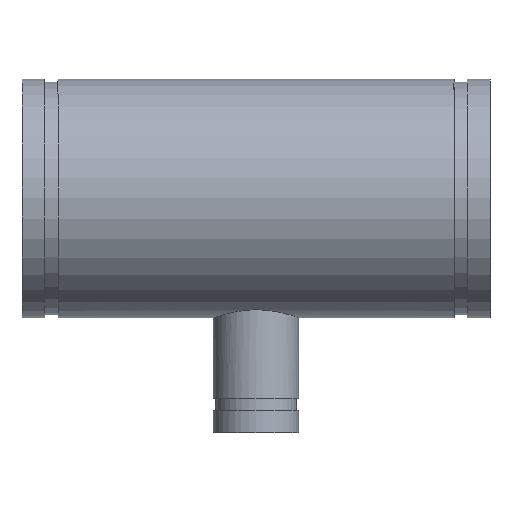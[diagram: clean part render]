
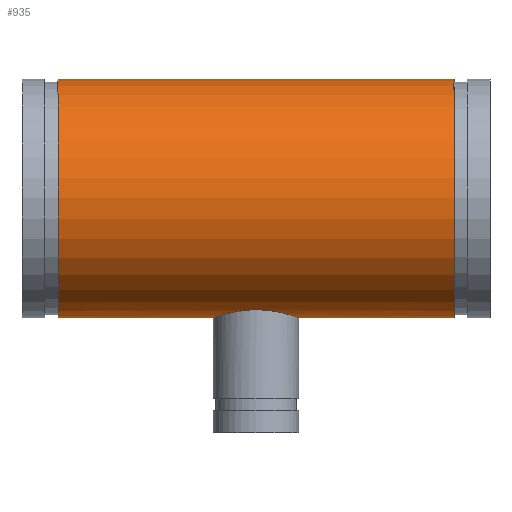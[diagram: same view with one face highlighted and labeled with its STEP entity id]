
A CAD part, top view. The second image highlights one B-rep face of the part: STEP entity #935.
In plain terms, the highlighted cylindrical face has radius 84.138 mm (diameter 168.275 mm), a full revolution.
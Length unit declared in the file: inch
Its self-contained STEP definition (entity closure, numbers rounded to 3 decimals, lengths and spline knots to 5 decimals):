
#61=FACE_BOUND('',#222,.T.);
#67=B_SPLINE_CURVE_WITH_KNOTS('',3,(#1807,#1808,#1809,#1810,#1811,#1812,
#1813,#1814,#1815,#1816,#1817,#1818,#1819,#1820,#1821,#1822,#1823,#1824),
 .UNSPECIFIED.,.F.,.F.,(4,2,2,2,2,2,2,2,4),(0.,0.57384,1.14768,
1.72152,2.29537,2.86885,3.44232,4.0158,
4.58928),.UNSPECIFIED.);
#68=B_SPLINE_CURVE_WITH_KNOTS('',3,(#1825,#1826,#1827,#1828,#1829,#1830,
#1831,#1832,#1833,#1834,#1835,#1836,#1837,#1838,#1839,#1840,#1841,#1842,
#1843,#1844,#1845,#1846,#1847,#1848,#1849,#1850,#1851,#1852,#1853,#1854,
#1855,#1856,#1857,#1858,#1859,#1860,#1861,#1862,#1863,#1864,#1865,#1866,
#1867,#1868,#1869,#1870,#1871,#1872,#1873,#1874),.UNSPECIFIED.,.F.,.F.,
(4,2,2,2,2,2,2,2,2,2,2,2,2,2,2,2,2,2,2,2,2,2,2,2,4),(4.58928,5.16276,
5.73624,6.30972,6.8832,7.45704,8.03088,
8.60472,9.17857,9.75241,10.32625,10.90009,
11.47393,12.04741,12.62089,13.19437,13.76785,
14.34133,14.91481,15.48829,16.06176,16.63561,
17.20945,17.78329,18.35713),.UNSPECIFIED.);
#81=CYLINDRICAL_SURFACE('',#1104,3.3125);
#103=LINE('',#1804,#125);
#125=VECTOR('',#1432,3.3125);
#171=FACE_OUTER_BOUND('',#221,.T.);
#221=EDGE_LOOP('',(#814,#815,#816,#817));
#222=EDGE_LOOP('',(#818,#819));
#326=CIRCLE('',#1087,3.3125);
#337=CIRCLE('',#1103,3.3125);
#424=VERTEX_POINT('',#1772);
#435=VERTEX_POINT('',#1801);
#436=VERTEX_POINT('',#1805);
#437=VERTEX_POINT('',#1806);
#552=EDGE_CURVE('',#424,#424,#326,.T.);
#565=EDGE_CURVE('',#435,#435,#337,.T.);
#566=EDGE_CURVE('',#435,#424,#103,.T.);
#567=EDGE_CURVE('',#436,#437,#67,.T.);
#568=EDGE_CURVE('',#437,#436,#68,.T.);
#814=ORIENTED_EDGE('',*,*,#565,.T.);
#815=ORIENTED_EDGE('',*,*,#566,.T.);
#816=ORIENTED_EDGE('',*,*,#552,.T.);
#817=ORIENTED_EDGE('',*,*,#566,.F.);
#818=ORIENTED_EDGE('',*,*,#567,.T.);
#819=ORIENTED_EDGE('',*,*,#568,.T.);
#935=ADVANCED_FACE('',(#171,#61),#81,.T.);
#1087=AXIS2_PLACEMENT_3D('',#1773,#1394,#1395);
#1103=AXIS2_PLACEMENT_3D('',#1802,#1428,#1429);
#1104=AXIS2_PLACEMENT_3D('',#1803,#1430,#1431);
#1394=DIRECTION('center_axis',(-1.,0.,0.));
#1395=DIRECTION('ref_axis',(0.,-1.,0.));
#1428=DIRECTION('center_axis',(1.,0.,0.));
#1429=DIRECTION('ref_axis',(0.,-1.,0.));
#1430=DIRECTION('center_axis',(-1.,0.,0.));
#1431=DIRECTION('ref_axis',(0.,-1.,0.));
#1432=DIRECTION('',(1.,0.,0.));
#1772=CARTESIAN_POINT('',(5.5,3.3125,0.));
#1773=CARTESIAN_POINT('Origin',(5.5,0.,0.));
#1801=CARTESIAN_POINT('',(-5.5,3.3125,0.));
#1802=CARTESIAN_POINT('Origin',(-5.5,0.,0.));
#1803=CARTESIAN_POINT('Origin',(6.5,0.,0.));
#1804=CARTESIAN_POINT('',(6.5,3.3125,0.));
#1805=CARTESIAN_POINT('',(0.,-3.09233,-1.1875));
#1806=CARTESIAN_POINT('',(-1.1875,-3.3125,0.));
#1807=CARTESIAN_POINT('Ctrl Pts',(0.,-3.09233,
-1.1875));
#1808=CARTESIAN_POINT('Ctrl Pts',(-0.07531,-3.09233,
-1.1875));
#1809=CARTESIAN_POINT('Ctrl Pts',(-0.15294,-3.09516,
-1.18022));
#1810=CARTESIAN_POINT('Ctrl Pts',(-0.30692,-3.10657,
-1.14983));
#1811=CARTESIAN_POINT('Ctrl Pts',(-0.38327,-3.11515,-1.12673));
#1812=CARTESIAN_POINT('Ctrl Pts',(-0.52932,-3.13647,-1.06594));
#1813=CARTESIAN_POINT('Ctrl Pts',(-0.59916,-3.14921,
-1.02821));
#1814=CARTESIAN_POINT('Ctrl Pts',(-0.72817,-3.17628,-0.94126));
#1815=CARTESIAN_POINT('Ctrl Pts',(-0.78733,-3.19059,
-0.89205));
#1816=CARTESIAN_POINT('Ctrl Pts',(-0.89202,-3.21802,
-0.78736));
#1817=CARTESIAN_POINT('Ctrl Pts',(-0.94123,-3.23213,
-0.72822));
#1818=CARTESIAN_POINT('Ctrl Pts',(-1.02818,-3.25852,-0.5992));
#1819=CARTESIAN_POINT('Ctrl Pts',(-1.06594,-3.27076,-0.52934));
#1820=CARTESIAN_POINT('Ctrl Pts',(-1.12674,-3.29108,-0.38323));
#1821=CARTESIAN_POINT('Ctrl Pts',(-1.14985,-3.29916,-0.30687));
#1822=CARTESIAN_POINT('Ctrl Pts',(-1.18023,-3.30987,-0.15288));
#1823=CARTESIAN_POINT('Ctrl Pts',(-1.1875,-3.3125,-0.07526));
#1824=CARTESIAN_POINT('Ctrl Pts',(-1.1875,-3.3125,0.));
#1825=CARTESIAN_POINT('Ctrl Pts',(-1.1875,-3.3125,0.));
#1826=CARTESIAN_POINT('Ctrl Pts',(-1.1875,-3.3125,0.07526));
#1827=CARTESIAN_POINT('Ctrl Pts',(-1.18023,-3.30987,0.15288));
#1828=CARTESIAN_POINT('Ctrl Pts',(-1.14985,-3.29916,0.30687));
#1829=CARTESIAN_POINT('Ctrl Pts',(-1.12674,-3.29108,0.38323));
#1830=CARTESIAN_POINT('Ctrl Pts',(-1.06594,-3.27076,0.52934));
#1831=CARTESIAN_POINT('Ctrl Pts',(-1.02818,-3.25852,0.5992));
#1832=CARTESIAN_POINT('Ctrl Pts',(-0.94123,-3.23213,
0.72822));
#1833=CARTESIAN_POINT('Ctrl Pts',(-0.89202,-3.21802,
0.78736));
#1834=CARTESIAN_POINT('Ctrl Pts',(-0.78733,-3.19059,
0.89205));
#1835=CARTESIAN_POINT('Ctrl Pts',(-0.72817,-3.17628,0.94126));
#1836=CARTESIAN_POINT('Ctrl Pts',(-0.59916,-3.14921,
1.02821));
#1837=CARTESIAN_POINT('Ctrl Pts',(-0.52932,-3.13647,1.06594));
#1838=CARTESIAN_POINT('Ctrl Pts',(-0.38327,-3.11515,1.12673));
#1839=CARTESIAN_POINT('Ctrl Pts',(-0.30692,-3.10657,
1.14983));
#1840=CARTESIAN_POINT('Ctrl Pts',(-0.15294,-3.09516,
1.18022));
#1841=CARTESIAN_POINT('Ctrl Pts',(-0.07531,-3.09233,
1.1875));
#1842=CARTESIAN_POINT('Ctrl Pts',(0.07531,-3.09233,
1.1875));
#1843=CARTESIAN_POINT('Ctrl Pts',(0.15294,-3.09516,1.18022));
#1844=CARTESIAN_POINT('Ctrl Pts',(0.30692,-3.10657,1.14983));
#1845=CARTESIAN_POINT('Ctrl Pts',(0.38327,-3.11515,1.12673));
#1846=CARTESIAN_POINT('Ctrl Pts',(0.52932,-3.13647,1.06594));
#1847=CARTESIAN_POINT('Ctrl Pts',(0.59916,-3.14921,1.02821));
#1848=CARTESIAN_POINT('Ctrl Pts',(0.72817,-3.17628,0.94126));
#1849=CARTESIAN_POINT('Ctrl Pts',(0.78733,-3.19059,0.89205));
#1850=CARTESIAN_POINT('Ctrl Pts',(0.89202,-3.21802,0.78736));
#1851=CARTESIAN_POINT('Ctrl Pts',(0.94123,-3.23213,0.72822));
#1852=CARTESIAN_POINT('Ctrl Pts',(1.02818,-3.25852,0.5992));
#1853=CARTESIAN_POINT('Ctrl Pts',(1.06594,-3.27076,0.52934));
#1854=CARTESIAN_POINT('Ctrl Pts',(1.12674,-3.29108,0.38323));
#1855=CARTESIAN_POINT('Ctrl Pts',(1.14985,-3.29916,0.30687));
#1856=CARTESIAN_POINT('Ctrl Pts',(1.18023,-3.30987,0.15288));
#1857=CARTESIAN_POINT('Ctrl Pts',(1.1875,-3.3125,0.07526));
#1858=CARTESIAN_POINT('Ctrl Pts',(1.1875,-3.3125,-0.07526));
#1859=CARTESIAN_POINT('Ctrl Pts',(1.18023,-3.30987,-0.15288));
#1860=CARTESIAN_POINT('Ctrl Pts',(1.14985,-3.29916,-0.30687));
#1861=CARTESIAN_POINT('Ctrl Pts',(1.12674,-3.29108,-0.38323));
#1862=CARTESIAN_POINT('Ctrl Pts',(1.06594,-3.27076,-0.52934));
#1863=CARTESIAN_POINT('Ctrl Pts',(1.02818,-3.25852,-0.5992));
#1864=CARTESIAN_POINT('Ctrl Pts',(0.94123,-3.23213,-0.72822));
#1865=CARTESIAN_POINT('Ctrl Pts',(0.89202,-3.21802,-0.78736));
#1866=CARTESIAN_POINT('Ctrl Pts',(0.78733,-3.19059,-0.89205));
#1867=CARTESIAN_POINT('Ctrl Pts',(0.72817,-3.17628,-0.94126));
#1868=CARTESIAN_POINT('Ctrl Pts',(0.59916,-3.14921,-1.02821));
#1869=CARTESIAN_POINT('Ctrl Pts',(0.52932,-3.13647,-1.06594));
#1870=CARTESIAN_POINT('Ctrl Pts',(0.38327,-3.11515,-1.12673));
#1871=CARTESIAN_POINT('Ctrl Pts',(0.30692,-3.10657,-1.14983));
#1872=CARTESIAN_POINT('Ctrl Pts',(0.15294,-3.09516,-1.18022));
#1873=CARTESIAN_POINT('Ctrl Pts',(0.07531,-3.09233,
-1.1875));
#1874=CARTESIAN_POINT('Ctrl Pts',(0.,-3.09233,
-1.1875));
